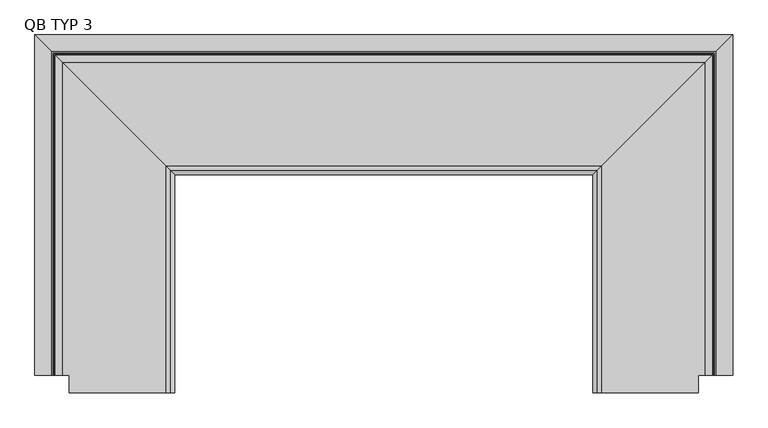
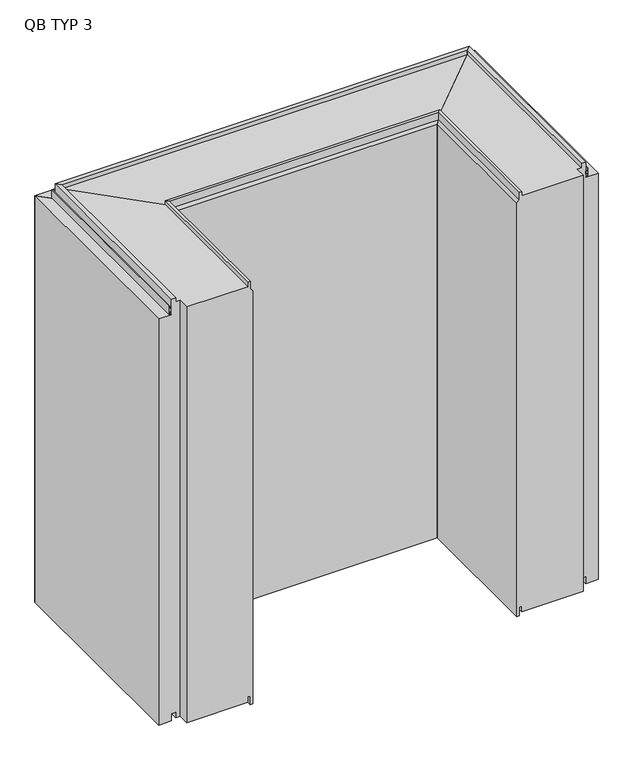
"""IFC4 building model written with IfcOpenShell, lengths in millimetres: plate geometry, TR_C_H_QBISS_U_Corner_Tr : QB TYP 3."""

from ifc_helpers import new_model, si_unit, origin, place, context, project, spatial, faceted_brep, source, transform, mapped, element, save


def qb_typ_3_3e02adca(model_context):
    return source(origin(), model_context, "Body", "Brep", [
        faceted_brep([(-300.0, -512.4, -8.0), (-300.0, -512.4, 986.0), (-306.0, -512.4, 992.0), (-306.0, -512.4, 1010.0), (-312.0, -512.4, 1010.0), (-312.0, -512.4, 1000.0), (-451.0, -512.4, 1000.0), (-451.0, -512.4, 0.0), (-312.0, -512.4, 0.0), (-312.0, -512.4, 13.0), (-306.0, -512.4, 13.0), (-306.0, -512.4, -8.0), (-306.0, -194.0, -8.0), (-300.0, -200.0, -8.0), (-306.0, -194.0, 13.0), (-312.0, -188.0, 13.0), (-312.0, -188.0, 0.0), (-451.0, -487.3, 0.0), (-461.0, -487.3, 0.0), (-461.0, -39.0, 0.0), (-461.0, -487.3, 13.0), (-461.0, -39.0, 13.0), (-471.0, -487.3, 13.0), (-471.0, -29.0, 13.0), (-471.0, -487.3, -4.0), (-471.0, -29.0, -4.0), (-500.0, 0.0, -4.0), (-500.0, -487.3, -4.0), (-500.0, -487.3, 973.0), (-500.0, 0.0, 973.0), (-471.0, -487.3, 973.0), (-471.0, -29.0, 973.0), (-471.0, -487.3, 1010.0), (-471.0, -29.0, 1010.0), (-461.0, -487.3, 1010.0), (-461.0, -39.0, 1010.0), (-461.0, -487.3, 1000.0), (-461.0, -39.0, 1000.0), (-312.0, -188.0, 1000.0), (-451.0, -487.3, 1000.0), (-312.0, -188.0, 1010.0), (-306.0, -194.0, 1010.0), (-306.0, -194.0, 992.0), (-300.0, -200.0, 986.0)], [[[0, 1, 2, 3, 4, 5, 6, 7, 8, 9, 10, 11]], [[11, 12, 13, 0]], [[10, 14, 12, 11]], [[9, 15, 14, 10]], [[8, 16, 15, 9]], [[7, 17, 18, 19, 16, 8]], [[20, 21, 19, 18]], [[22, 23, 21, 20]], [[24, 25, 23, 22]], [[26, 25, 24, 27]], [[27, 28, 29, 26]], [[28, 30, 31, 29]], [[32, 33, 31, 30]], [[34, 35, 33, 32]], [[36, 37, 35, 34]], [[5, 38, 37, 36, 39, 6]], [[4, 40, 38, 5]], [[3, 41, 40, 4]], [[2, 42, 41, 3]], [[1, 43, 42, 2]], [[0, 13, 43, 1]], [[17, 7, 6, 39]], [[39, 36, 34, 32, 30, 28, 27, 24, 22, 20, 18, 17]], [[12, 14, 15, 16, 19, 21, 23, 25, 26, 29, 31, 33, 35, 37, 38, 40, 41, 42, 43, 13]]]),
        faceted_brep([(300.0, -512.4, -8.0), (306.0, -512.4, -8.0), (306.0, -512.4, 13.0), (312.0, -512.4, 13.0), (312.0, -512.4, 0.0), (451.0, -512.4, 0.0), (451.0, -512.4, 1000.0), (312.0, -512.4, 1000.0), (312.0, -512.4, 1010.0), (306.0, -512.4, 1010.0), (306.0, -512.4, 992.0), (300.0, -512.4, 986.0), (300.0, -200.0, -8.0), (306.0, -194.0, -8.0), (306.0, -194.0, 13.0), (312.0, -188.0, 13.0), (312.0, -188.0, 0.0), (461.0, -39.0, 0.0), (461.0, -487.3, 0.0), (451.0, -487.3, 0.0), (461.0, -487.3, 13.0), (461.0, -39.0, 13.0), (471.0, -487.3, 13.0), (471.0, -29.0, 13.0), (471.0, -487.3, -4.0), (471.0, -29.0, -4.0), (500.0, 0.0, -4.0), (500.0, -487.3, -4.0), (500.0, 0.0, 973.0), (500.0, -487.3, 973.0), (471.0, -29.0, 973.0), (471.0, -487.3, 973.0), (471.0, -487.3, 1010.0), (471.0, -29.0, 1010.0), (461.0, -487.3, 1010.0), (461.0, -39.0, 1010.0), (461.0, -487.3, 1000.0), (461.0, -39.0, 1000.0), (451.0, -487.3, 1000.0), (312.0, -188.0, 1000.0), (312.0, -188.0, 1010.0), (306.0, -194.0, 1010.0), (306.0, -194.0, 992.0), (300.0, -200.0, 986.0)], [[[0, 1, 2, 3, 4, 5, 6, 7, 8, 9, 10, 11]], [[1, 0, 12, 13]], [[2, 1, 13, 14]], [[3, 2, 14, 15]], [[4, 3, 15, 16]], [[5, 4, 16, 17, 18, 19]], [[20, 18, 17, 21]], [[22, 20, 21, 23]], [[24, 22, 23, 25]], [[26, 27, 24, 25]], [[27, 26, 28, 29]], [[29, 28, 30, 31]], [[32, 31, 30, 33]], [[34, 32, 33, 35]], [[36, 34, 35, 37]], [[7, 6, 38, 36, 37, 39]], [[8, 7, 39, 40]], [[9, 8, 40, 41]], [[10, 9, 41, 42]], [[11, 10, 42, 43]], [[0, 11, 43, 12]], [[19, 38, 6, 5]], [[38, 19, 18, 20, 22, 24, 27, 29, 31, 32, 34, 36]], [[13, 12, 43, 42, 41, 40, 39, 37, 35, 33, 30, 28, 26, 25, 23, 21, 17, 16, 15, 14]]]),
        faceted_brep([(461.0, -39.0, 0.0), (312.0, -188.0, 0.0), (-312.0, -188.0, 0.0), (-461.0, -39.0, 0.0), (461.0, -39.0, 13.0), (-461.0, -39.0, 13.0), (471.0, -29.0, 13.0), (-471.0, -29.0, 13.0), (471.0, -29.0, -4.0), (-471.0, -29.0, -4.0), (-500.0, 0.0, -4.0), (500.0, 0.0, -4.0), (-500.0, 0.0, 973.0), (500.0, 0.0, 973.0), (-471.0, -29.0, 973.0), (471.0, -29.0, 973.0), (471.0, -29.0, 1010.0), (-471.0, -29.0, 1010.0), (461.0, -39.0, 1010.0), (-461.0, -39.0, 1010.0), (461.0, -39.0, 1000.0), (-461.0, -39.0, 1000.0), (312.0, -188.0, 1000.0), (-312.0, -188.0, 1000.0), (312.0, -188.0, 1010.0), (-312.0, -188.0, 1010.0), (306.0, -194.0, 1010.0), (-306.0, -194.0, 1010.0), (306.0, -194.0, 992.0), (-306.0, -194.0, 992.0), (300.0, -200.0, 986.0), (-300.0, -200.0, 986.0), (300.0, -200.0, -8.0), (-300.0, -200.0, -8.0), (306.0, -194.0, -8.0), (-306.0, -194.0, -8.0), (306.0, -194.0, 13.0), (-306.0, -194.0, 13.0), (312.0, -188.0, 13.0), (-312.0, -188.0, 13.0)], [[[0, 1, 2, 3]], [[4, 0, 3, 5]], [[6, 4, 5, 7]], [[8, 6, 7, 9]], [[10, 11, 8, 9]], [[11, 10, 12, 13]], [[13, 12, 14, 15]], [[16, 15, 14, 17]], [[18, 16, 17, 19]], [[20, 18, 19, 21]], [[22, 20, 21, 23]], [[24, 22, 23, 25]], [[26, 24, 25, 27]], [[28, 26, 27, 29]], [[30, 28, 29, 31]], [[32, 30, 31, 33]], [[34, 32, 33, 35]], [[36, 34, 35, 37]], [[38, 36, 37, 39]], [[1, 38, 39, 2]], [[1, 0, 4, 6, 8, 11, 13, 15, 16, 18, 20, 22, 24, 26, 28, 30, 32, 34, 36, 38]], [[3, 2, 39, 37, 35, 33, 31, 29, 27, 25, 23, 21, 19, 17, 14, 12, 10, 9, 7, 5]]]),
        faceted_brep([(476.0, -487.3, 994.5), (474.5001683, -487.3, 994.5), (474.5001683, -487.3, 987.7023593), (472.0001707, -487.3, 987.7023593), (472.0001707, -487.3, 988.5023593), (471.2001572, -487.3, 988.5023593), (471.2001572, -487.3, 980.5023028), (472.0001707, -487.3, 980.5023028), (472.0001707, -487.3, 981.3023028), (474.5001683, -487.3, 981.3023028), (474.5001683, -487.3, 974.5), (476.0, -487.3, 974.5), (-476.0, -487.3, 994.5), (-476.0, -487.3, 974.5), (-474.5001683, -487.3, 974.5), (-474.5001683, -487.3, 981.3023028), (-472.0001707, -487.3, 981.3023028), (-472.0001707, -487.3, 980.5023028), (-471.2001572, -487.3, 980.5023028), (-471.2001572, -487.3, 988.5023593), (-472.0001707, -487.3, 988.5023593), (-472.0001707, -487.3, 987.7023593), (-474.5001683, -487.3, 987.7023593), (-474.5001683, -487.3, 994.5), (476.0, -24.0, 994.5), (-476.0, -24.0, 994.5), (-474.5001683, -25.4998317, 994.5), (474.5001683, -25.4998317, 994.5), (474.5001683, -25.4998317, 987.7023593), (-474.5001683, -25.4998317, 987.7023593), (-472.0001707, -27.9998293, 987.7023593), (472.0001707, -27.9998293, 987.7023593), (472.0001707, -27.9998293, 988.5023593), (-472.0001707, -27.9998293, 988.5023593), (-471.2001572, -28.7998428, 988.5023593), (471.2001572, -28.7998428, 988.5023593), (471.2001572, -28.7998428, 980.5023028), (-471.2001572, -28.7998428, 980.5023028), (-472.0001707, -27.9998293, 980.5023028), (472.0001707, -27.9998293, 980.5023028), (472.0001707, -27.9998293, 981.3023028), (-472.0001707, -27.9998293, 981.3023028), (-474.5001683, -25.4998317, 981.3023028), (474.5001683, -25.4998317, 981.3023028), (474.5001683, -25.4998317, 974.5), (-474.5001683, -25.4998317, 974.5), (-476.0, -24.0, 974.5), (476.0, -24.0, 974.5)], [[[0, 1, 2, 3, 4, 5, 6, 7, 8, 9, 10, 11]], [[12, 13, 14, 15, 16, 17, 18, 19, 20, 21, 22, 23]], [[1, 0, 24, 25, 12, 23, 26, 27]], [[2, 1, 27, 28]], [[3, 2, 28, 29, 22, 21, 30, 31]], [[4, 3, 31, 32]], [[5, 4, 32, 33, 20, 19, 34, 35]], [[6, 5, 35, 36]], [[7, 6, 36, 37, 18, 17, 38, 39]], [[8, 7, 39, 40]], [[9, 8, 40, 41, 16, 15, 42, 43]], [[10, 9, 43, 44]], [[11, 10, 44, 45, 14, 13, 46, 47]], [[0, 11, 47, 24]], [[28, 27, 26, 29]], [[32, 31, 30, 33]], [[36, 35, 34, 37]], [[40, 39, 38, 41]], [[44, 43, 42, 45]], [[24, 47, 46, 25]], [[29, 26, 23, 22]], [[33, 30, 21, 20]], [[37, 34, 19, 18]], [[41, 38, 17, 16]], [[45, 42, 15, 14]], [[25, 46, 13, 12]]]),
    ])


if __name__ == "__main__":
    model = new_model("IFC4")
    model_context = context("Model", 3, world=origin())
    ifc_project = project(units=[si_unit("LENGTHUNIT", "METRE", prefix="MILLI")], contexts=[model_context])
    site = spatial("IfcSite", under=ifc_project)
    building = spatial("IfcBuilding", under=site)
    placement = place(None, origin())
    qb_typ_3_shape = qb_typ_3_3e02adca(model_context)
    element("IfcPlate", 1, ObjectType="TR_C_H_QBISS_U_Corner_Tr : QB TYP 3", at=placement, inside=building, context=model_context, shape_type="MappedRepresentation", body=[
        mapped(qb_typ_3_shape, transform((0.0, 0.0, 0.0), x_axis=(1.0, 0.0, 0.0), y_axis=(0.0, 1.0, 0.0), z_axis=(0.0, 0.0, 1.0))),
    ])
    save(model, "model.ifc")
